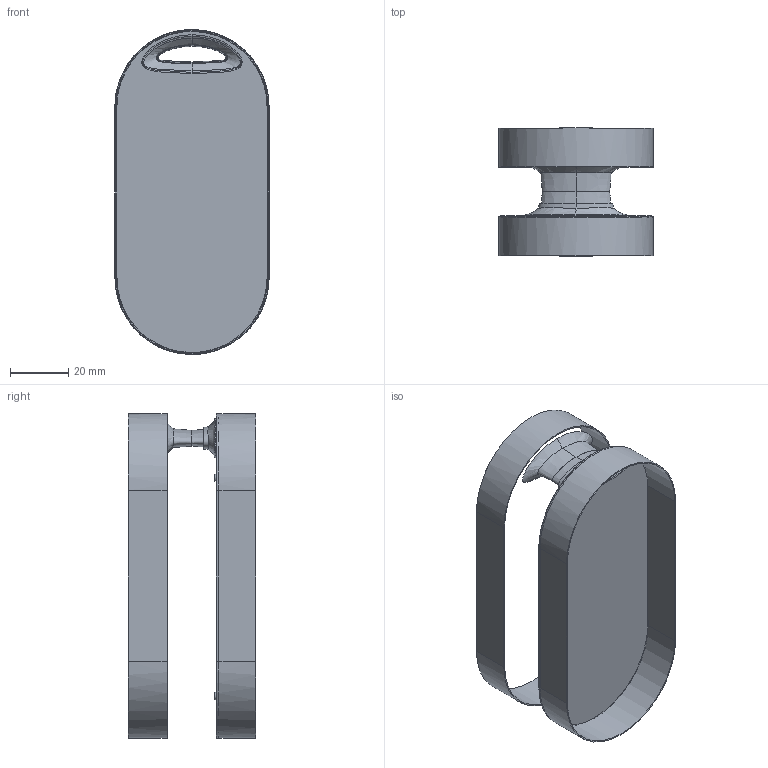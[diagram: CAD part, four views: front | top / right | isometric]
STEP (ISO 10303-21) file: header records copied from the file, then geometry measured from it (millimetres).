
FILE_DESCRIPTION((''),'2;1');
FILE_NAME('GTC01-A-MPB01_PRT','2008-06-30T',('GRA'),(''),'PRO/ENGINEER BY PARAMETRIC TECHNOLOGY CORPORATION, 2006170','PRO/ENGINEER BY PARAMETRIC TECHNOLOGY CORPORATION, 2006170','');
FILE_SCHEMA(('CONFIG_CONTROL_DESIGN'));
Length unit declared in the file: millimetre
Products named in the file (1): GTC01-A-MPB01_PRT
Bounding box: 53 x 43.8 x 111.7 mm (x, y, z)
Volume: 3836.3 mm3; surface area: 27393.2 mm2
Topology: 1 solids, 5 shells, 78 faces, 170 edges, 102 vertices
Faces by surface type: bspline 28, plane 20, cylinder 16, extrusion 8, cone 6
Entity records: 5788 total; most frequent: CARTESIAN_POINT 4252, ORIENTED_EDGE 316, DIRECTION 238, EDGE_CURVE 170, VERTEX_POINT 102, EDGE_LOOP 88, AXIS2_PLACEMENT_3D 87, FACE_OUTER_BOUND 78
